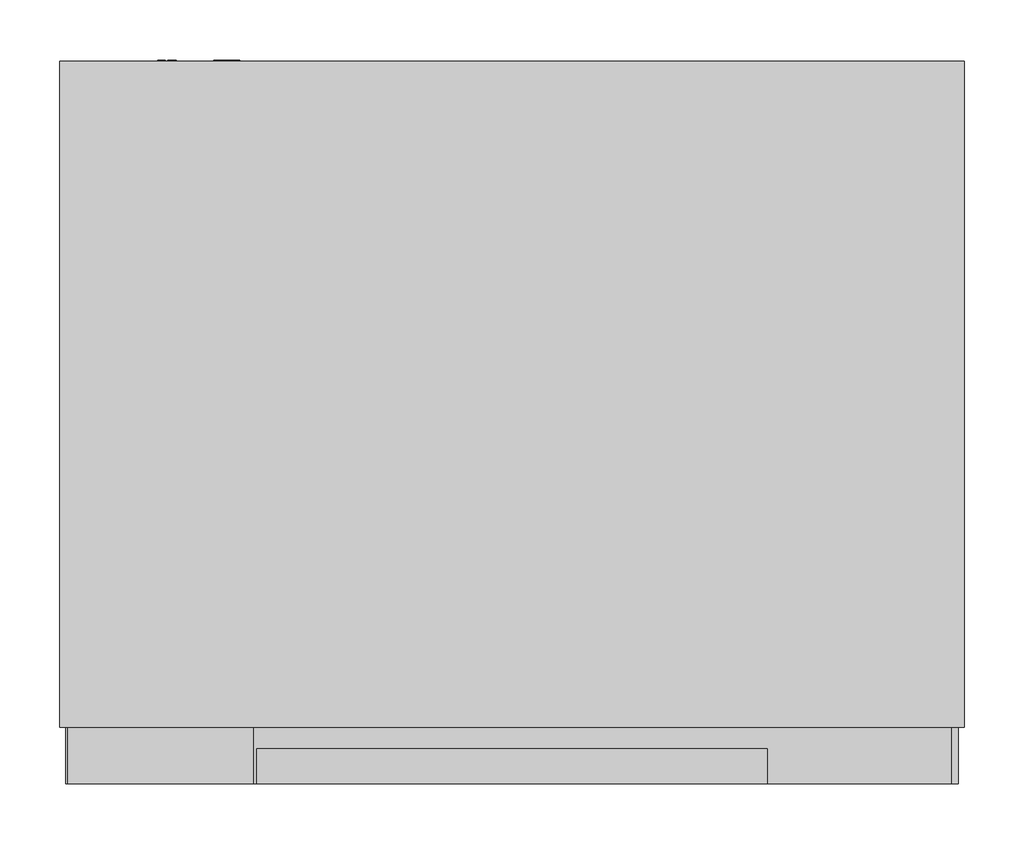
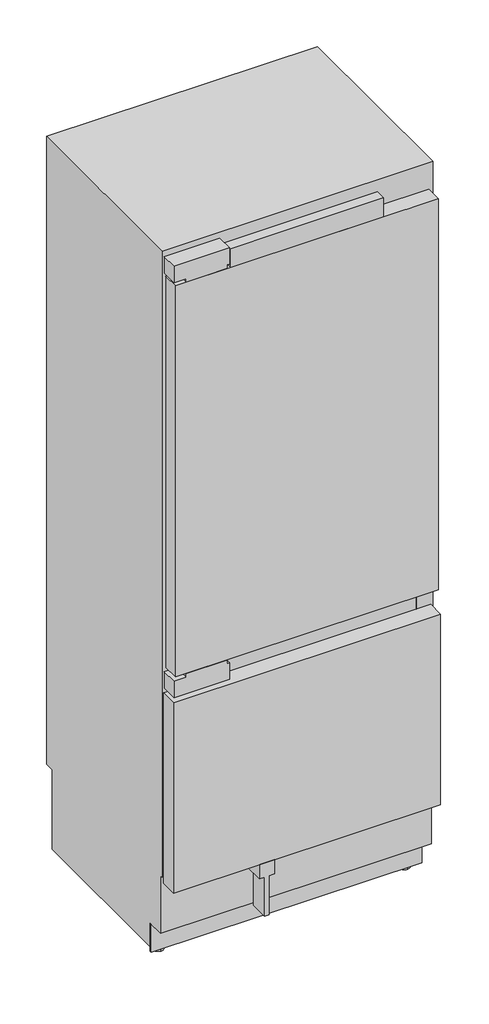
# Not in any storey: 1 proxy.
"""IFC4 building model written with IfcOpenShell, lengths in millimetres."""

from ifc_helpers import new_model, si_unit, origin, place, context, project, spatial, transform, mapped, element, save
from components import specialty_equipment_cfb43e8a

model = new_model("IFC4")

# Units and contexts
model_context = context("Model", 3, world=origin())
ifc_project = project(units=[si_unit("LENGTHUNIT", "METRE", prefix="MILLI")], contexts=[model_context])

# Site, building
site = spatial("IfcSite", under=ifc_project)
building = spatial("IfcBuilding", under=site)

# Proxy
placement = place(None, origin())
specialty_equipment_shape = specialty_equipment_cfb43e8a(model_context)
element("IfcBuildingElementProxy", 1, Name="11502870_USA_KF2812Vi : 38281201_USA_11502870_KF2812Vi", ObjectType="11502870_USA_KF2812Vi : 38281201_USA_11502870_KF2812Vi", at=placement, inside=building, context=model_context, shape_type="MappedRepresentation", body=[
    mapped(specialty_equipment_shape, transform((0.0, 0.0, 0.0), x_axis=(1.0, 0.0, 0.0), y_axis=(0.0, 1.0, 0.0), z_axis=(0.0, 0.0, 1.0))),
])

save(model, "model.ifc")
